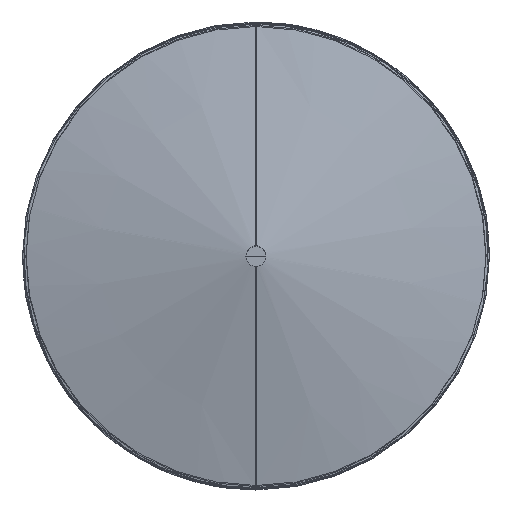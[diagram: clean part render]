
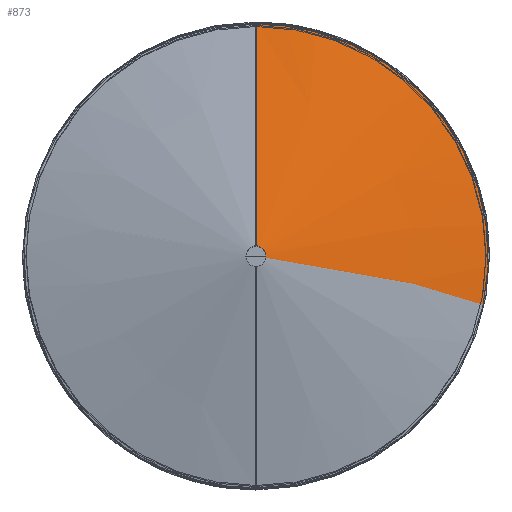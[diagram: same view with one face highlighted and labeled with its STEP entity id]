
A CAD part, top view. The second image highlights one B-rep face of the part: STEP entity #873.
In plain terms, the highlighted conical face has half-angle 78.221 degrees and reference radius 23.85 mm.
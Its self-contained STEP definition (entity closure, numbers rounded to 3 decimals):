
#47=B_SPLINE_CURVE_WITH_KNOTS('',3,(#1776,#1777,#1778,#1779,#1780,#1781,
#1782,#1783,#1784,#1785,#1786,#1787,#1788,#1789,#1790),.UNSPECIFIED.,.F.,
 .F.,(4,1,1,1,1,1,1,1,1,1,1,1,4),(0.,0.083,0.167,
0.25,0.333,0.417,0.5,0.583,0.667,
0.75,0.833,0.917,1.),.UNSPECIFIED.);
#68=CONICAL_SURFACE('',#998,23.85,1.365);
#161=FACE_OUTER_BOUND('',#229,.T.);
#229=EDGE_LOOP('',(#758,#759,#760,#761));
#281=CIRCLE('',#999,7.147);
#326=LINE('',#1793,#374);
#327=LINE('',#1796,#375);
#374=VECTOR('',#1272,304.8);
#375=VECTOR('',#1275,304.8);
#432=VERTEX_POINT('',#1654);
#433=VERTEX_POINT('',#1707);
#434=VERTEX_POINT('',#1792);
#435=VERTEX_POINT('',#1794);
#541=EDGE_CURVE('',#432,#433,#47,.T.);
#542=EDGE_CURVE('',#434,#432,#326,.T.);
#544=EDGE_CURVE('',#433,#435,#327,.T.);
#545=EDGE_CURVE('',#434,#435,#281,.T.);
#758=ORIENTED_EDGE('',*,*,#541,.T.);
#759=ORIENTED_EDGE('',*,*,#544,.T.);
#760=ORIENTED_EDGE('',*,*,#545,.F.);
#761=ORIENTED_EDGE('',*,*,#542,.T.);
#873=ADVANCED_FACE('',(#161),#68,.T.);
#998=AXIS2_PLACEMENT_3D('',#1797,#1276,#1277);
#999=AXIS2_PLACEMENT_3D('',#1798,#1278,#1279);
#1272=DIRECTION('',(0.,0.979,-0.204));
#1275=DIRECTION('',(0.,0.979,0.204));
#1276=DIRECTION('center_axis',(0.,0.,-1.));
#1277=DIRECTION('ref_axis',(-0.588,-0.809,0.));
#1278=DIRECTION('center_axis',(0.,0.,1.));
#1279=DIRECTION('ref_axis',(-0.588,-0.809,0.));
#1654=CARTESIAN_POINT('',(0.,174.182,-34.832));
#1707=CARTESIAN_POINT('',(0.,-174.182,-34.832));
#1776=CARTESIAN_POINT('Ctrl Pts',(0.,174.182,
-34.832));
#1777=CARTESIAN_POINT('Ctrl Pts',(-15.213,174.229,-34.832));
#1778=CARTESIAN_POINT('Ctrl Pts',(-45.594,170.158,-34.832));
#1779=CARTESIAN_POINT('Ctrl Pts',(-88.093,152.585,-34.832));
#1780=CARTESIAN_POINT('Ctrl Pts',(-124.58,124.579,-34.832));
#1781=CARTESIAN_POINT('Ctrl Pts',(-152.579,88.092,-34.832));
#1782=CARTESIAN_POINT('Ctrl Pts',(-170.18,45.599,-34.832));
#1783=CARTESIAN_POINT('Ctrl Pts',(-176.183,0.,
-34.832));
#1784=CARTESIAN_POINT('Ctrl Pts',(-170.18,-45.599,-34.832));
#1785=CARTESIAN_POINT('Ctrl Pts',(-152.579,-88.092,-34.832));
#1786=CARTESIAN_POINT('Ctrl Pts',(-124.58,-124.579,-34.832));
#1787=CARTESIAN_POINT('Ctrl Pts',(-88.093,-152.585,-34.832));
#1788=CARTESIAN_POINT('Ctrl Pts',(-45.594,-170.158,-34.832));
#1789=CARTESIAN_POINT('Ctrl Pts',(-15.213,-174.229,-34.832));
#1790=CARTESIAN_POINT('Ctrl Pts',(0.,-174.182,
-34.832));
#1792=CARTESIAN_POINT('',(0.,7.147,0.));
#1793=CARTESIAN_POINT('',(0.,7.147,0.));
#1794=CARTESIAN_POINT('',(0.,-7.147,0.));
#1796=CARTESIAN_POINT('',(0.,-174.182,-34.832));
#1797=CARTESIAN_POINT('Origin',(0.,0.,
-3.483));
#1798=CARTESIAN_POINT('Origin',(0.,0.,
0.));
